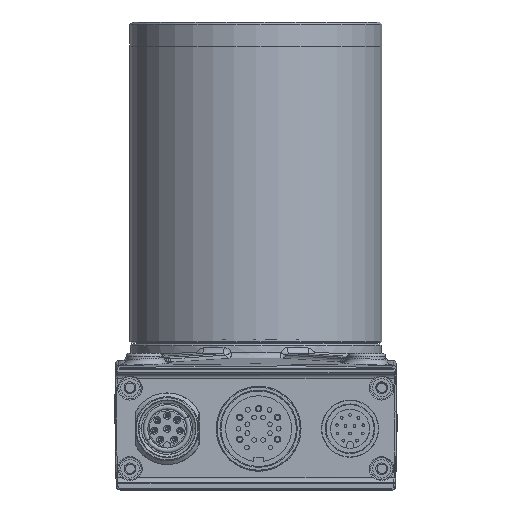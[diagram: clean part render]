
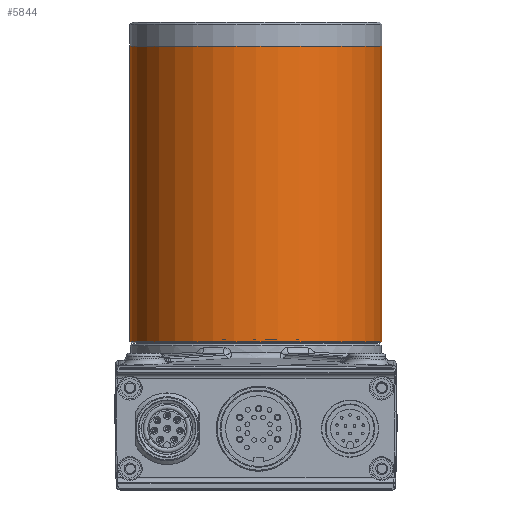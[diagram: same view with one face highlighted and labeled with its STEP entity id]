
A CAD part, front view. The second image highlights one B-rep face of the part: STEP entity #5844.
In plain terms, the highlighted cylindrical face has radius 26.75 mm (diameter 53.5 mm), a full revolution.
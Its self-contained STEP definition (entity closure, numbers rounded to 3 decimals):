
#4658=CYLINDRICAL_SURFACE('',#30281,26.75);
#5844=ADVANCED_FACE('',(#9468,#9469),#4658,.T.);
#9468=FACE_BOUND('',#10766,.T.);
#9469=FACE_BOUND('',#10767,.T.);
#10766=EDGE_LOOP('',(#15282));
#10767=EDGE_LOOP('',(#15283));
#15282=ORIENTED_EDGE('',*,*,#24305,.T.);
#15283=ORIENTED_EDGE('',*,*,#24306,.T.);
#20866=VERTEX_POINT('',#53212);
#20867=VERTEX_POINT('',#53214);
#24305=EDGE_CURVE('',#20866,#20866,#27311,.T.);
#24306=EDGE_CURVE('',#20867,#20867,#27312,.T.);
#27311=CIRCLE('',#30279,26.75);
#27312=CIRCLE('',#30280,26.75);
#30279=AXIS2_PLACEMENT_3D('',#53211,#35982,#35983);
#30280=AXIS2_PLACEMENT_3D('',#53213,#35984,#35985);
#30281=AXIS2_PLACEMENT_3D('',#53215,#35986,#35987);
#35982=DIRECTION('',(0.,0.,1.));
#35983=DIRECTION('',(1.,0.,0.));
#35984=DIRECTION('',(0.,0.,-1.));
#35985=DIRECTION('',(-1.,0.,0.));
#35986=DIRECTION('',(0.,0.,-1.));
#35987=DIRECTION('',(-1.,0.,0.));
#53211=CARTESIAN_POINT('',(0.,0.,0.3));
#53212=CARTESIAN_POINT('',(26.75,0.,0.3));
#53213=CARTESIAN_POINT('',(0.,0.,63.));
#53214=CARTESIAN_POINT('',(-26.75,0.,63.));
#53215=CARTESIAN_POINT('',(0.,0.,65.));
